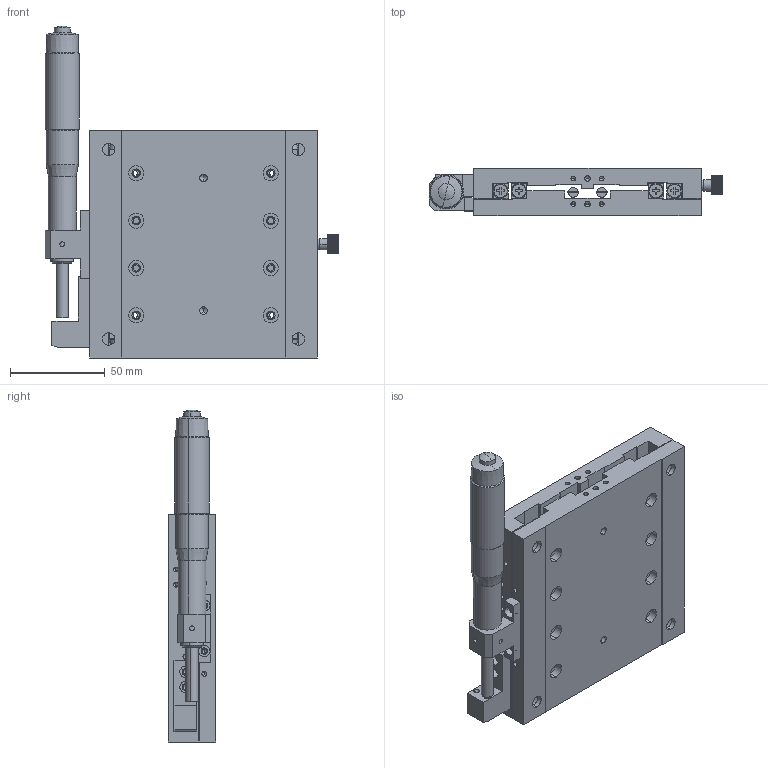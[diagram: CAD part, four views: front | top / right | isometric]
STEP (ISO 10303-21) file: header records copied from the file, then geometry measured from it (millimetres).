
FILE_DESCRIPTION (( 'STEP AP203' ), '1' );
FILE_NAME ('JCX-120L-50.STEP', '2019-02-11T02:19:24', ( 'Windows 餌辨濠' ), ( '' ), 'SwSTEP 2.0', 'SolidWorks 2018', '' );
FILE_SCHEMA (( 'CONFIG_CONTROL_DESIGN' ));
Length unit declared in the file: millimetre
Products named in the file (11): FB-JCX-BK-L-04; FB-JCX-BK-M-03; JALB-74-F; FC-SP-5X50; FB-JCX120-BD-03; FB-JCX120-BD-01; JCX-120L-50; FC-NB-10; FC-SJ-3; JV3-100-14; FB-PL-64X19
Assembly tree (14 placements, depth 2):
  JCX-120L-50
    FB-JCX120-BD-03
    FB-JCX120-BD-01
    JV3-100-14  x4
    FB-JCX-BK-M-03
    JALB-74-F
    FB-JCX-BK-L-04
    FB-PL-64X19
    FC-NB-10
    FC-SJ-3
    FC-SP-5X50  x2
Bounding box: 154.93 x 25 x 175.2 mm (x, y, z)
Volume: 331620.7 mm3; surface area: 116167.9 mm2
Topology: 14 solids, 14 shells, 1300 faces, 3323 edges, 2016 vertices
Faces by surface type: cylinder 659, plane 445, cone 188, sphere 8
Entity records: 28689 total; most frequent: DIRECTION 5178, CARTESIAN_POINT 4644, ORIENTED_EDGE 4420, EDGE_CURVE 2210, AXIS2_PLACEMENT_3D 2036, VERTEX_POINT 1426, EDGE_LOOP 1170, LINE 1106
